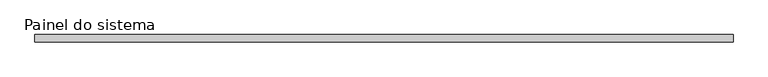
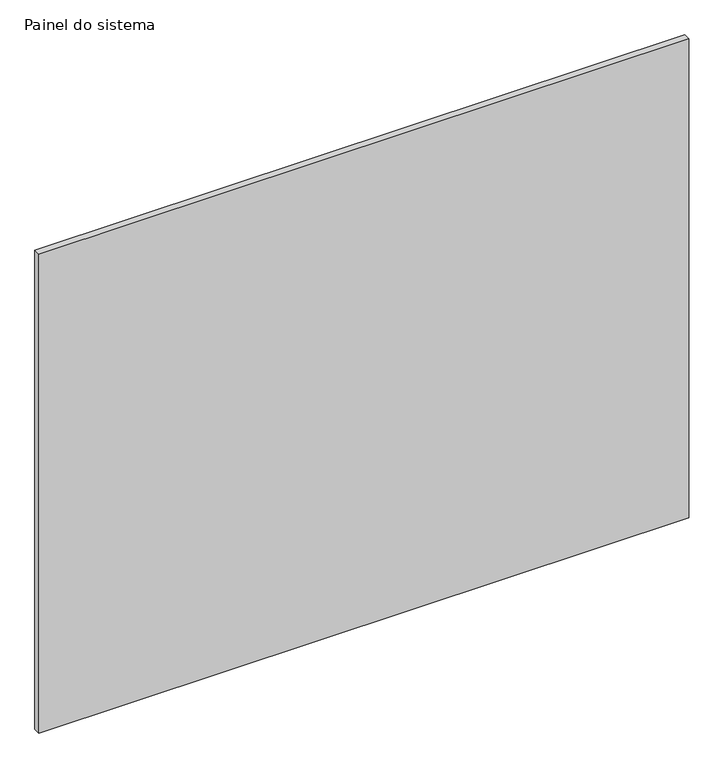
"""IFC4 building model written with IfcOpenShell, lengths in millimetres: plate geometry, Painel do sistema : ALAMBRADO."""

from ifc_helpers import new_model, si_unit, origin, origin_with_axes, place, context, project, spatial, polyline, outline, extrude, source, transform, mapped, element, save


def painel_do_sistema_e56fb110(model_context):
    return source(origin(), model_context, "Body", "SweptSolid", [
        extrude(outline(polyline([(1154.9718917, 24.5), (-1154.9718917, 24.5), (-1154.9718917, 49.5), (1154.9718917, 49.5), (1154.9718917, 24.5)])), origin_with_axes(), (0.0, 0.0, 1.0), 1800.0),
    ])


if __name__ == "__main__":
    model = new_model("IFC4")
    model_context = context("Model", 3, world=origin())
    ifc_project = project(units=[si_unit("LENGTHUNIT", "METRE", prefix="MILLI")], contexts=[model_context])
    site = spatial("IfcSite", under=ifc_project)
    building = spatial("IfcBuilding", under=site)
    placement = place(None, origin())
    painel_do_sistema_shape = painel_do_sistema_e56fb110(model_context)
    element("IfcPlate", 1, ObjectType="Painel do sistema : ALAMBRADO", at=placement, inside=building, context=model_context, shape_type="MappedRepresentation", body=[
        mapped(painel_do_sistema_shape, transform((0.0, 0.0, 0.0), x_axis=(1.0, 0.0, 0.0), y_axis=(0.0, 1.0, 0.0), z_axis=(0.0, 0.0, 1.0))),
    ])
    save(model, "model.ifc")
